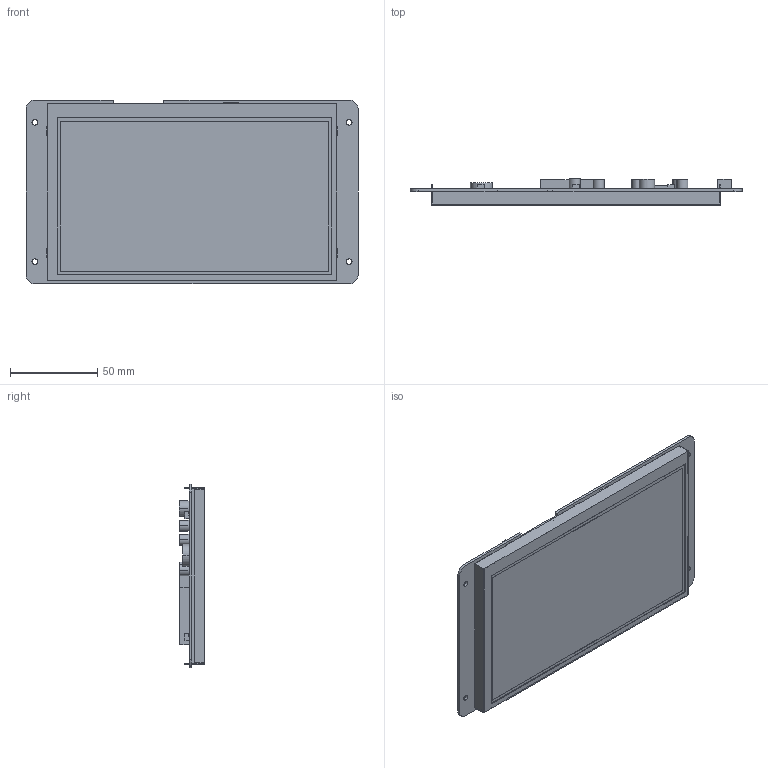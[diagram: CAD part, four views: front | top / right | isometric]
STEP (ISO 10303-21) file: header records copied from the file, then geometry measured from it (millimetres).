
FILE_DESCRIPTION((''),'2;1');
FILE_NAME('DMG80480T070-09WTR_ASM','2021-12-03T',('Administrator'),(''),'PRO/ENGINEER BY PARAMETRIC TECHNOLOGY CORPORATION, 2014320','PRO/ENGINEER BY PARAMETRIC TECHNOLOGY CORPORATION, 2014320','');
FILE_SCHEMA(('CONFIG_CONTROL_DESIGN','SHAPE_APPEARANCE_LAYERS_GROUPS'));
Length unit declared in the file: millimetre
Products named in the file (4): TK070011; LN80480T070IA9004; PCB; DMG80480T070-09WTR_ASM
Assembly tree (3 placements, depth 2):
  DMG80480T070-09WTR_ASM
    TK070011
    LN80480T070IA9004
    PCB
Bounding box: 190.5 x 14.8 x 105.41 mm (x, y, z)
Volume: 132709.4 mm3; surface area: 92554.9 mm2
Topology: 3 solids, 3 shells, 199 faces, 543 edges, 362 vertices
Faces by surface type: plane 163, cylinder 36
Entity records: 6571 total; most frequent: CARTESIAN_POINT 1111, ORIENTED_EDGE 1086, DIRECTION 1027, EDGE_CURVE 543, VECTOR 471, LINE 471, VERTEX_POINT 362, AXIS2_PLACEMENT_3D 278
